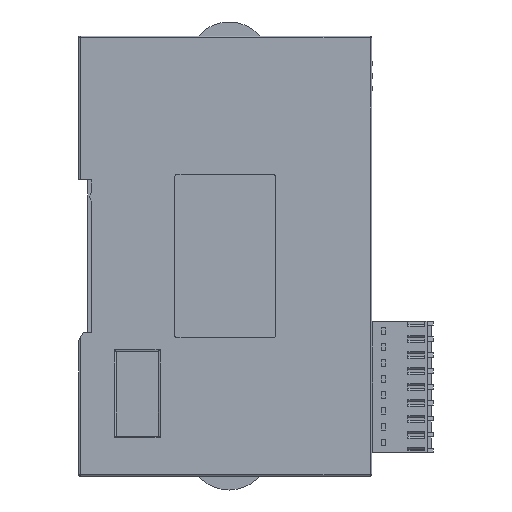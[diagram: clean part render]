
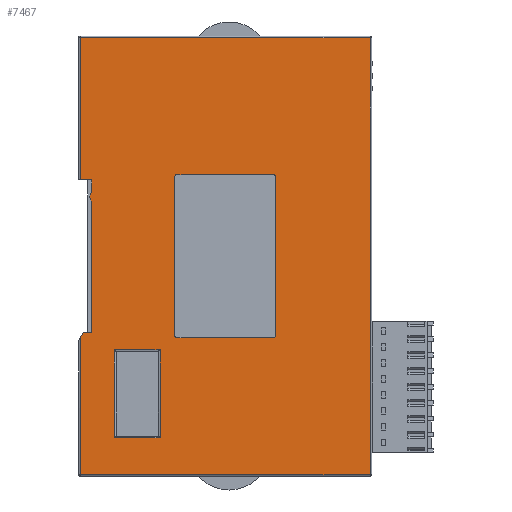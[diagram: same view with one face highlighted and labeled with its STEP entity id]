
A CAD part, left-side view. The second image highlights one B-rep face of the part: STEP entity #7467.
In plain terms, the highlighted planar face has unit normal (-1, 0, 0).
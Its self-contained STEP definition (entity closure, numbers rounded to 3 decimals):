
#7467=ADVANCED_FACE('',(#19549,#19551,#19553),#19555,.T.);
#19549=FACE_BOUND('',#19550,.T.);
#19550=EDGE_LOOP('',(#28261,#28262,#28263,#28264,#28265,#28266,#28267,#28268,#28269,
#28270,#28271));
#19551=FACE_BOUND('',#19552,.T.);
#19552=EDGE_LOOP('',(#28272,#28273,#28274,#28275,#28276,#28277,#28278,#28279));
#19553=FACE_BOUND('',#19554,.T.);
#19554=EDGE_LOOP('',(#28280,#28281,#28282,#28283));
#19555=PLANE('',#19556);
#19556=AXIS2_PLACEMENT_3D('',#19557,#19558,#19559);
#19557=CARTESIAN_POINT('',(-345.903,-44.348,173.566));
#19558=DIRECTION('',(-1.,0.,0.));
#19559=DIRECTION('',(0.,0.,1.));
#28261=ORIENTED_EDGE('',*,*,#34642,.F.);
#28262=ORIENTED_EDGE('',*,*,#34643,.F.);
#28263=ORIENTED_EDGE('',*,*,#34644,.T.);
#28264=ORIENTED_EDGE('',*,*,#34645,.T.);
#28265=ORIENTED_EDGE('',*,*,#34646,.T.);
#28266=ORIENTED_EDGE('',*,*,#34647,.T.);
#28267=ORIENTED_EDGE('',*,*,#34648,.T.);
#28268=ORIENTED_EDGE('',*,*,#34649,.F.);
#28269=ORIENTED_EDGE('',*,*,#34650,.F.);
#28270=ORIENTED_EDGE('',*,*,#34651,.F.);
#28271=ORIENTED_EDGE('',*,*,#33983,.F.);
#28272=ORIENTED_EDGE('',*,*,#34652,.F.);
#28273=ORIENTED_EDGE('',*,*,#34653,.F.);
#28274=ORIENTED_EDGE('',*,*,#34654,.F.);
#28275=ORIENTED_EDGE('',*,*,#34655,.F.);
#28276=ORIENTED_EDGE('',*,*,#34656,.F.);
#28277=ORIENTED_EDGE('',*,*,#34657,.F.);
#28278=ORIENTED_EDGE('',*,*,#34658,.F.);
#28279=ORIENTED_EDGE('',*,*,#34659,.F.);
#28280=ORIENTED_EDGE('',*,*,#34660,.F.);
#28281=ORIENTED_EDGE('',*,*,#34661,.F.);
#28282=ORIENTED_EDGE('',*,*,#34662,.F.);
#28283=ORIENTED_EDGE('',*,*,#34663,.F.);
#33983=EDGE_CURVE('',#40925,#40923,#40927,.T.);
#34642=EDGE_CURVE('',#41986,#40925,#41987,.T.);
#34643=EDGE_CURVE('',#41988,#41986,#41989,.T.);
#34644=EDGE_CURVE('',#41988,#41990,#41991,.T.);
#34645=EDGE_CURVE('',#41990,#41992,#41993,.T.);
#34646=EDGE_CURVE('',#41992,#41994,#41995,.T.);
#34647=EDGE_CURVE('',#41994,#41996,#41997,.T.);
#34648=EDGE_CURVE('',#41996,#41998,#41999,.T.);
#34649=EDGE_CURVE('',#42000,#41998,#42001,.T.);
#34650=EDGE_CURVE('',#42002,#42000,#42003,.T.);
#34651=EDGE_CURVE('',#40923,#42002,#42004,.T.);
#34652=EDGE_CURVE('',#42005,#42006,#42007,.T.);
#34653=EDGE_CURVE('',#42008,#42005,#42009,.T.);
#34654=EDGE_CURVE('',#42010,#42008,#42011,.T.);
#34655=EDGE_CURVE('',#42012,#42010,#42013,.T.);
#34656=EDGE_CURVE('',#42014,#42012,#42015,.T.);
#34657=EDGE_CURVE('',#42016,#42014,#42017,.T.);
#34658=EDGE_CURVE('',#42018,#42016,#42019,.T.);
#34659=EDGE_CURVE('',#42006,#42018,#42020,.T.);
#34660=EDGE_CURVE('',#42021,#42022,#42023,.T.);
#34661=EDGE_CURVE('',#42024,#42021,#42025,.T.);
#34662=EDGE_CURVE('',#42026,#42024,#42027,.T.);
#34663=EDGE_CURVE('',#42022,#42026,#42028,.T.);
#40923=VERTEX_POINT('',#51518);
#40925=VERTEX_POINT('',#51523);
#40927=LINE('',#51528,#51529);
#41986=VERTEX_POINT('',#62868);
#41987=LINE('',#62869,#62870);
#41988=VERTEX_POINT('',#62872);
#41989=LINE('',#62873,#62874);
#41990=VERTEX_POINT('',#62876);
#41991=LINE('',#62877,#62878);
#41992=VERTEX_POINT('',#62880);
#41993=LINE('',#62881,#62882);
#41994=VERTEX_POINT('',#62884);
#41995=CIRCLE('',#62885,2.);
#41996=VERTEX_POINT('',#62889);
#41997=LINE('',#62890,#62891);
#41998=VERTEX_POINT('',#62893);
#41999=LINE('',#62894,#62895);
#42000=VERTEX_POINT('',#62897);
#42001=LINE('',#62898,#62899);
#42002=VERTEX_POINT('',#62901);
#42003=LINE('',#62902,#62903);
#42004=LINE('',#62905,#62906);
#42005=VERTEX_POINT('',#62908);
#42006=VERTEX_POINT('',#62909);
#42007=CIRCLE('',#62910,0.5);
#42008=VERTEX_POINT('',#62914);
#42009=LINE('',#62915,#62916);
#42010=VERTEX_POINT('',#62918);
#42011=CIRCLE('',#62919,0.5);
#42012=VERTEX_POINT('',#62923);
#42013=LINE('',#62924,#62925);
#42014=VERTEX_POINT('',#62927);
#42015=CIRCLE('',#62928,0.5);
#42016=VERTEX_POINT('',#62932);
#42017=LINE('',#62933,#62934);
#42018=VERTEX_POINT('',#62936);
#42019=CIRCLE('',#62937,0.5);
#42020=LINE('',#62941,#62942);
#42021=VERTEX_POINT('',#62944);
#42022=VERTEX_POINT('',#62945);
#42023=LINE('',#62946,#62947);
#42024=VERTEX_POINT('',#62949);
#42025=LINE('',#62950,#62951);
#42026=VERTEX_POINT('',#62953);
#42027=LINE('',#62954,#62955);
#42028=LINE('',#62957,#62958);
#51518=CARTESIAN_POINT('',(-345.903,-120.48,183.998));
#51523=CARTESIAN_POINT('',(-345.903,-120.48,288.198));
#51528=CARTESIAN_POINT('',(-345.903,-120.48,288.198));
#51529=VECTOR('',#51530,1.);
#51530=DIRECTION('',(0.,0.,-1.));
#62868=CARTESIAN_POINT('',(-345.903,-51.28,288.198));
#62869=CARTESIAN_POINT('',(-345.903,-51.28,288.198));
#62870=VECTOR('',#62871,1.);
#62871=DIRECTION('',(0.,-1.,0.));
#62872=CARTESIAN_POINT('',(-345.903,-51.28,254.298));
#62873=CARTESIAN_POINT('',(-345.903,-51.28,254.298));
#62874=VECTOR('',#62875,1.);
#62875=DIRECTION('',(0.,0.,1.));
#62876=CARTESIAN_POINT('',(-345.903,-54.08,254.298));
#62877=CARTESIAN_POINT('',(-345.903,-51.28,254.298));
#62878=VECTOR('',#62879,1.);
#62879=DIRECTION('',(0.,-1.,0.));
#62880=CARTESIAN_POINT('',(-345.903,-54.08,251.62));
#62881=CARTESIAN_POINT('',(-345.903,-54.08,254.298));
#62882=VECTOR('',#62883,1.);
#62883=DIRECTION('',(0.,0.,-1.));
#62884=CARTESIAN_POINT('',(-345.903,-54.08,248.975));
#62885=AXIS2_PLACEMENT_3D('',#62886,#62887,#62888);
#62886=CARTESIAN_POINT('',(-345.903,-55.58,250.298));
#62887=DIRECTION('',(-1.,0.,0.));
#62888=DIRECTION('',(0.,0.75,0.661));
#62889=CARTESIAN_POINT('',(-345.903,-54.08,217.898));
#62890=CARTESIAN_POINT('',(-345.903,-54.08,248.975));
#62891=VECTOR('',#62892,1.);
#62892=DIRECTION('',(0.,0.,-1.));
#62893=CARTESIAN_POINT('',(-345.903,-52.08,217.898));
#62894=CARTESIAN_POINT('',(-345.903,-54.08,217.898));
#62895=VECTOR('',#62896,1.);
#62896=DIRECTION('',(0.,1.,0.));
#62897=CARTESIAN_POINT('',(-345.903,-51.28,216.564));
#62898=CARTESIAN_POINT('',(-345.903,-51.28,216.564));
#62899=VECTOR('',#62900,1.);
#62900=DIRECTION('',(0.,-0.515,0.857));
#62901=CARTESIAN_POINT('',(-345.903,-51.28,183.998));
#62902=CARTESIAN_POINT('',(-345.903,-51.28,183.998));
#62903=VECTOR('',#62904,1.);
#62904=DIRECTION('',(0.,0.,1.));
#62905=CARTESIAN_POINT('',(-345.903,-120.48,183.998));
#62906=VECTOR('',#62907,1.);
#62907=DIRECTION('',(0.,1.,0.));
#62908=CARTESIAN_POINT('',(-345.903,-74.38,255.598));
#62909=CARTESIAN_POINT('',(-345.903,-73.88,255.098));
#62910=AXIS2_PLACEMENT_3D('',#62911,#62912,#62913);
#62911=CARTESIAN_POINT('',(-345.903,-74.38,255.098));
#62912=DIRECTION('',(-1.,0.,0.));
#62913=DIRECTION('',(0.,0.,1.));
#62914=CARTESIAN_POINT('',(-345.903,-97.38,255.598));
#62915=CARTESIAN_POINT('',(-345.903,-97.38,255.598));
#62916=VECTOR('',#62917,1.);
#62917=DIRECTION('',(0.,1.,0.));
#62918=CARTESIAN_POINT('',(-345.903,-97.88,255.098));
#62919=AXIS2_PLACEMENT_3D('',#62920,#62921,#62922);
#62920=CARTESIAN_POINT('',(-345.903,-97.38,255.098));
#62921=DIRECTION('',(-1.,0.,0.));
#62922=DIRECTION('',(0.,-1.,0.));
#62923=CARTESIAN_POINT('',(-345.903,-97.88,217.098));
#62924=CARTESIAN_POINT('',(-345.903,-97.88,217.098));
#62925=VECTOR('',#62926,1.);
#62926=DIRECTION('',(0.,0.,1.));
#62927=CARTESIAN_POINT('',(-345.903,-97.38,216.598));
#62928=AXIS2_PLACEMENT_3D('',#62929,#62930,#62931);
#62929=CARTESIAN_POINT('',(-345.903,-97.38,217.098));
#62930=DIRECTION('',(-1.,0.,0.));
#62931=DIRECTION('',(0.,0.,-1.));
#62932=CARTESIAN_POINT('',(-345.903,-74.38,216.598));
#62933=CARTESIAN_POINT('',(-345.903,-74.38,216.598));
#62934=VECTOR('',#62935,1.);
#62935=DIRECTION('',(0.,-1.,0.));
#62936=CARTESIAN_POINT('',(-345.903,-73.88,217.098));
#62937=AXIS2_PLACEMENT_3D('',#62938,#62939,#62940);
#62938=CARTESIAN_POINT('',(-345.903,-74.38,217.098));
#62939=DIRECTION('',(-1.,0.,0.));
#62940=DIRECTION('',(0.,1.,0.));
#62941=CARTESIAN_POINT('',(-345.903,-73.88,255.098));
#62942=VECTOR('',#62943,1.);
#62943=DIRECTION('',(0.,0.,-1.));
#62944=CARTESIAN_POINT('',(-345.903,-70.34,213.748));
#62945=CARTESIAN_POINT('',(-345.903,-59.45,213.748));
#62946=CARTESIAN_POINT('',(-345.903,-70.34,213.748));
#62947=VECTOR('',#62948,1.);
#62948=DIRECTION('',(0.,1.,0.));
#62949=CARTESIAN_POINT('',(-345.903,-70.34,192.748));
#62950=CARTESIAN_POINT('',(-345.903,-70.34,192.748));
#62951=VECTOR('',#62952,1.);
#62952=DIRECTION('',(0.,0.,1.));
#62953=CARTESIAN_POINT('',(-345.903,-59.45,192.748));
#62954=CARTESIAN_POINT('',(-345.903,-59.45,192.748));
#62955=VECTOR('',#62956,1.);
#62956=DIRECTION('',(0.,-1.,0.));
#62957=CARTESIAN_POINT('',(-345.903,-59.45,213.748));
#62958=VECTOR('',#62959,1.);
#62959=DIRECTION('',(0.,0.,-1.));
